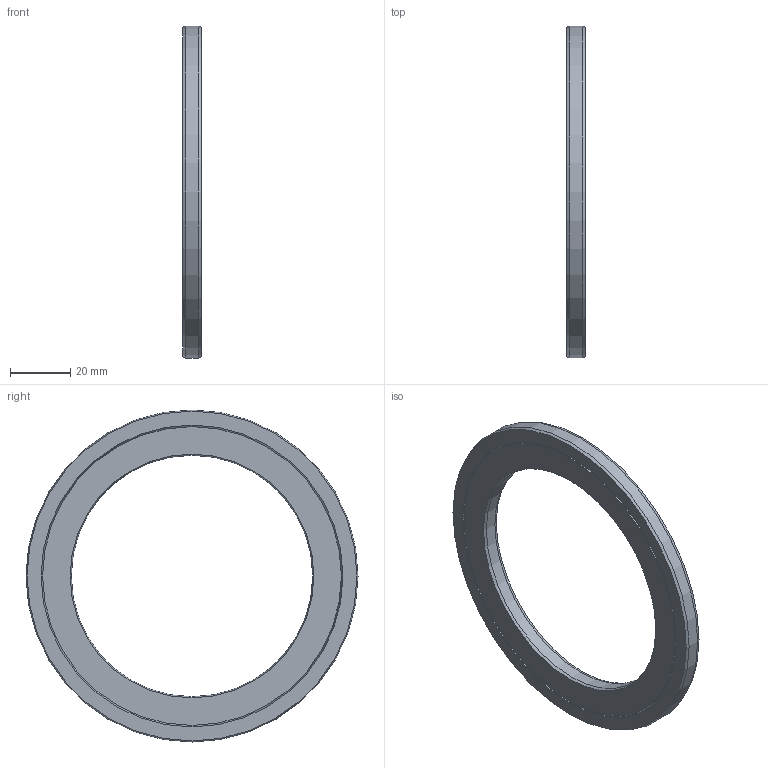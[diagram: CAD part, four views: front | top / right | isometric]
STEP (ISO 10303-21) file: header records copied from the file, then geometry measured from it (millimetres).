
FILE_DESCRIPTION(/* description */ (''),/* implementation_level */ '2;1');
FILE_NAME(/* name */ '307181 CF 61916 S10.stp',/* time_stamp */ '2016-12-16T11:59:57+01:00',/* author */ (''),/* organization */ (''),/* preprocessor_version */ 'ST-DEVELOPER v15',/* originating_system */ 'SIEMENS PLM Software NX 8.5',/* authorisation */ '');
FILE_SCHEMA (('CONFIG_CONTROL_DESIGN'));
Length unit declared in the file: millimetre
Products named in the file (1): ATE0000139_01
Bounding box: 6 x 110 x 110 mm (x, y, z)
Volume: 24467.4 mm3; surface area: 20582.7 mm2
Topology: 2 solids, 2 shells, 26 faces, 46 edges, 28 vertices
Faces by surface type: cone 10, plane 8, cylinder 8
Full cylindrical faces by diameter (mm): 80 x1, 87.5 x1, 88.5 x1, 90 x1, 91 x1, 99 x1, 100 x1, 110 x1
Entity records: 614 total; most frequent: DIRECTION 106, CARTESIAN_POINT 79, AXIS2_PLACEMENT_3D 53, FACE_BOUND 52, EDGE_LOOP 52, ORIENTED_EDGE 52, ADVANCED_FACE 26, VERTEX_POINT 26
